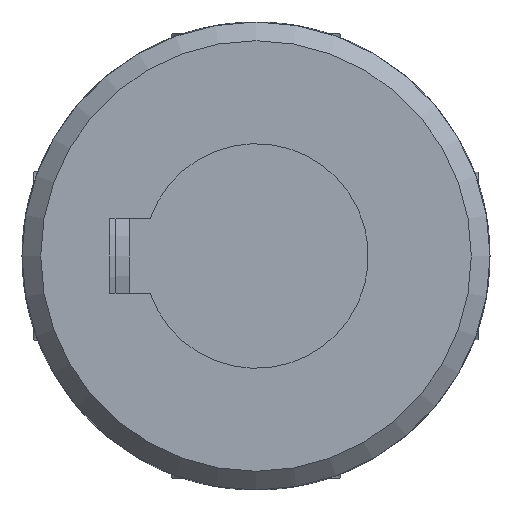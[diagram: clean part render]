
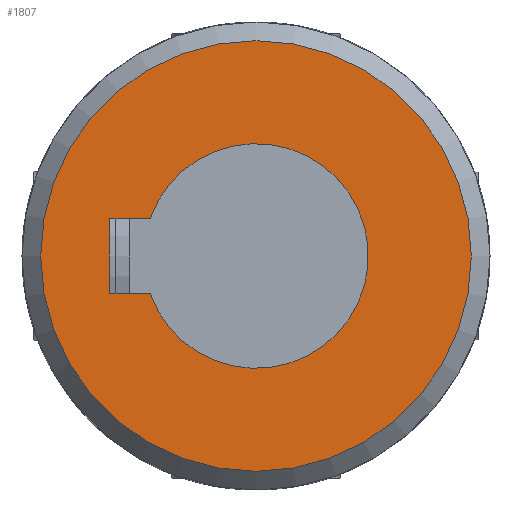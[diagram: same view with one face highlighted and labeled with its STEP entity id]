
A CAD part, front view. The second image highlights one B-rep face of the part: STEP entity #1807.
In plain terms, the highlighted planar face has unit normal (0, -1, 0).
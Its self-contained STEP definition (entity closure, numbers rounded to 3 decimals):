
#110=LINE('',#3439,#167);
#115=LINE('',#3456,#172);
#116=LINE('',#3469,#173);
#167=VECTOR('',#2379,2.143);
#172=VECTOR('',#2390,2.143);
#173=VECTOR('',#2393,4.);
#223=PLANE('',#1994);
#396=FACE_BOUND('',#633,.T.);
#486=FACE_OUTER_BOUND('',#632,.T.);
#632=EDGE_LOOP('',(#1576));
#633=EDGE_LOOP('',(#1577,#1578,#1579,#1580));
#729=CIRCLE('',#1982,6.);
#734=CIRCLE('',#1992,11.5);
#878=VERTEX_POINT('',#3428);
#879=VERTEX_POINT('',#3430);
#881=VERTEX_POINT('',#3438);
#887=VERTEX_POINT('',#3454);
#889=VERTEX_POINT('',#3475);
#1106=EDGE_CURVE('',#879,#878,#729,.T.);
#1109=EDGE_CURVE('',#881,#879,#110,.T.);
#1117=EDGE_CURVE('',#878,#887,#115,.T.);
#1119=EDGE_CURVE('',#887,#881,#116,.T.);
#1122=EDGE_CURVE('',#889,#889,#734,.T.);
#1576=ORIENTED_EDGE('',*,*,#1122,.F.);
#1577=ORIENTED_EDGE('',*,*,#1117,.T.);
#1578=ORIENTED_EDGE('',*,*,#1119,.T.);
#1579=ORIENTED_EDGE('',*,*,#1109,.T.);
#1580=ORIENTED_EDGE('',*,*,#1106,.T.);
#1807=ADVANCED_FACE('',(#486,#396),#223,.F.);
#1982=AXIS2_PLACEMENT_3D('',#3431,#2374,#2375);
#1992=AXIS2_PLACEMENT_3D('',#3476,#2402,#2403);
#1994=AXIS2_PLACEMENT_3D('',#3692,#2410,#2411);
#2374=DIRECTION('center_axis',(0.,1.,0.));
#2375=DIRECTION('ref_axis',(0.333,0.,-0.943));
#2379=DIRECTION('',(0.,0.,1.));
#2390=DIRECTION('',(0.,0.,-1.));
#2393=DIRECTION('',(-1.,0.,0.));
#2402=DIRECTION('center_axis',(0.,1.,0.));
#2403=DIRECTION('ref_axis',(1.,0.,0.));
#2410=DIRECTION('center_axis',(0.,1.,0.));
#2411=DIRECTION('ref_axis',(0.,0.,1.));
#3428=CARTESIAN_POINT('',(2.,-34.5,-5.657));
#3430=CARTESIAN_POINT('',(-2.,-34.5,-5.657));
#3431=CARTESIAN_POINT('Origin',(0.,-34.5,0.));
#3438=CARTESIAN_POINT('',(-2.,-34.5,-7.8));
#3439=CARTESIAN_POINT('',(-2.,-34.5,-3.9));
#3454=CARTESIAN_POINT('',(2.,-34.5,-7.8));
#3456=CARTESIAN_POINT('',(2.,-34.5,-2.828));
#3469=CARTESIAN_POINT('',(1.,-34.5,-7.8));
#3475=CARTESIAN_POINT('',(-11.5,-34.5,0.));
#3476=CARTESIAN_POINT('Origin',(0.,-34.5,0.));
#3692=CARTESIAN_POINT('Origin',(0.,-34.5,0.));
